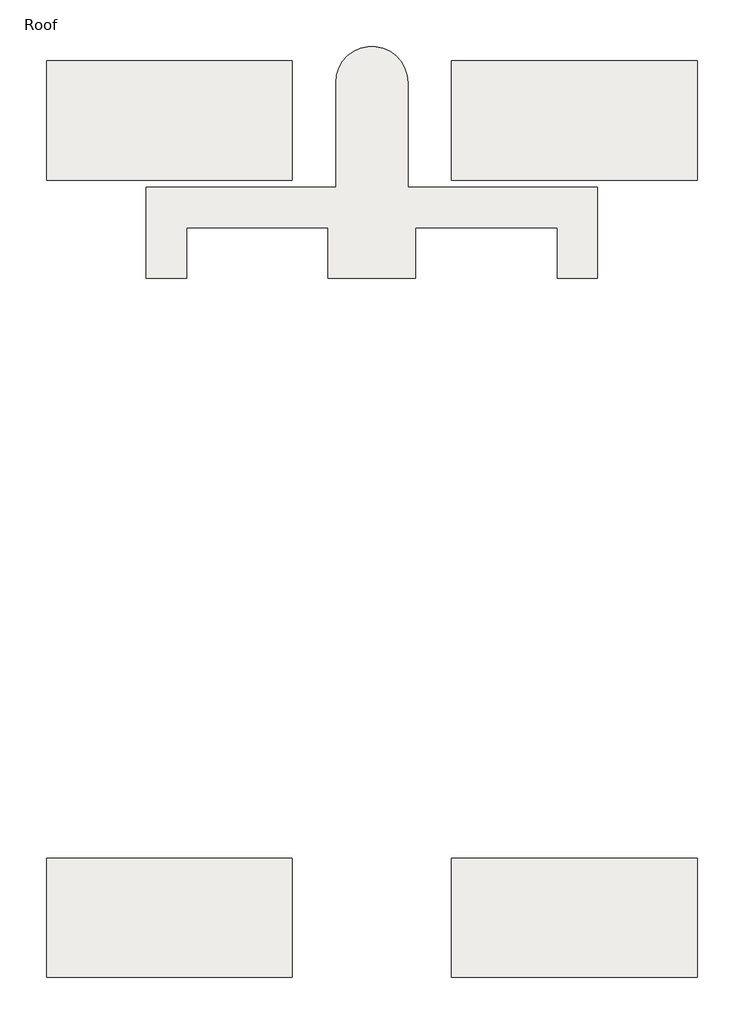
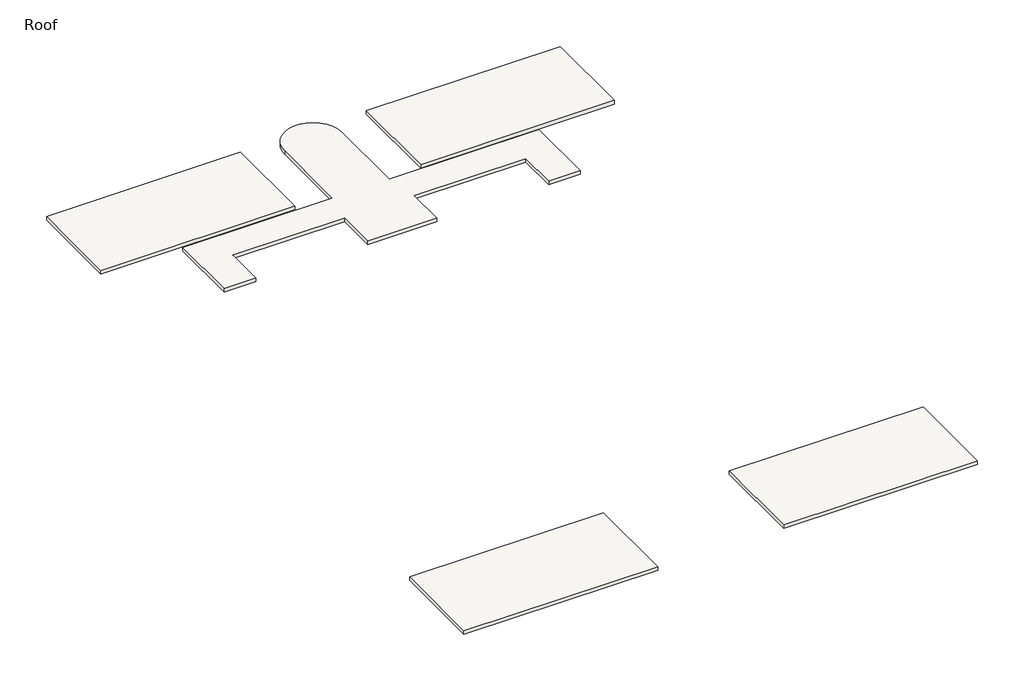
# One storey, incomplete: 5 roofs.
"""IFC4 building model written with IfcOpenShell, lengths in millimetres."""

from ifc_helpers import new_model, si_unit, point, frame, frame_2d, origin, place, context, project, spatial, polyline, circle_curve, trimmed, segment, composite_curve, outline, extrude, element, save

model = new_model("IFC4")

# Units and contexts
model_context = context("Model", 3, world=origin())
ifc_project = project(units=[si_unit("LENGTHUNIT", "METRE", prefix="MILLI")], contexts=[model_context])

# Site, building, storey
site = spatial("IfcSite", under=ifc_project)
building = spatial("IfcBuilding", under=site)
storey = spatial("IfcBuildingStorey", under=building, Name="Roof", Elevation=12192.0)

# Roofs
placement = place(None, origin())
element("IfcRoof", 1, ObjectType="Generic - 9\"", at=placement, inside=storey, context=model_context, shape_type="SweptSolid", body=[
    extrude(outline(polyline([(-11217.2464563, 10270.0191867), (622.3285437, 10270.0191867), (622.3285437, 4526.4441867), (-11217.2464563, 4526.4441867), (-11217.2464563, 10270.0191867)])), frame((0.0, 0.0, 12192.0), z_axis=(0.0, 0.0, 1.0), x_axis=(1.0, 0.0, 0.0)), (0.0, 0.0, 1.0), 228.6),
])
element("IfcRoof", 2, ObjectType="Generic - 9\"", at=placement, inside=storey, context=model_context, shape_type="SweptSolid", body=[
    extrude(outline(composite_curve([segment(polyline([(-25934.9589563, -197.9558133), (-25934.9589563, 4174.0191867), (-16803.6589563, 4174.0191867), (-16803.6589563, 9227.0316867)]), True, "CONTINUOUS"), segment(trimmed(circle_curve(frame_2d((-15068.5214563, 9227.0316867)), 1735.1375), [point((-16803.6589563, 9227.0316867))], [point((-13333.3839563, 9227.0316867))], False, "CARTESIAN"), True, "CONTINUOUS"), segment(polyline([(-13333.3839563, 9227.0316867), (-13333.3839563, 4174.0191867), (-4189.3839563, 4174.0191867), (-4189.3839563, -197.9558133), (-6122.9589563, -197.9558133), (-6122.9589563, 2240.4441867), (-12952.3839563, 2240.4441867), (-12952.3839563, -197.9558133), (-17171.9589563, -197.9558133), (-17171.9589563, 2240.4441867), (-24001.3839563, 2240.4441867), (-24001.3839563, -197.9558133), (-25934.9589563, -197.9558133)]), True, "CONTINUOUS")], self_intersect=False)), frame((0.0, 0.0, 12192.0), z_axis=(0.0, 0.0, 1.0), x_axis=(1.0, 0.0, 0.0)), (0.0, 0.0, 1.0), 228.6),
])
element("IfcRoof", 3, ObjectType="Generic - 9\"", at=placement, inside=storey, context=model_context, shape_type="SweptSolid", body=[
    extrude(outline(polyline([(-30746.6714563, 10270.0191867), (-18907.0964563, 10270.0191867), (-18907.0964563, 4526.4441867), (-30746.6714563, 4526.4441867), (-30746.6714563, 10270.0191867)])), frame((0.0, 0.0, 12192.0), z_axis=(0.0, 0.0, 1.0), x_axis=(1.0, 0.0, 0.0)), (0.0, 0.0, 1.0), 228.6),
])
element("IfcRoof", 4, ObjectType="Generic - 9\"", at=placement, inside=storey, context=model_context, shape_type="SweptSolid", body=[
    extrude(outline(polyline([(622.3285437, -33878.3558133), (-11217.2464563, -33878.3558133), (-11217.2464563, -28134.7808133), (622.3285437, -28134.7808133), (622.3285437, -33878.3558133)])), frame((0.0, 0.0, 12192.0), z_axis=(0.0, 0.0, 1.0), x_axis=(1.0, 0.0, 0.0)), (0.0, 0.0, 1.0), 228.6),
])
element("IfcRoof", 5, ObjectType="Generic - 9\"", at=placement, inside=storey, context=model_context, shape_type="SweptSolid", body=[
    extrude(outline(polyline([(-18907.0964563, -33878.3558133), (-30746.6714563, -33878.3558133), (-30746.6714563, -28134.7808133), (-18907.0964563, -28134.7808133), (-18907.0964563, -33878.3558133)])), frame((0.0, 0.0, 12192.0), z_axis=(0.0, 0.0, 1.0), x_axis=(1.0, 0.0, 0.0)), (0.0, 0.0, 1.0), 228.6),
])

save(model, "model.ifc")
